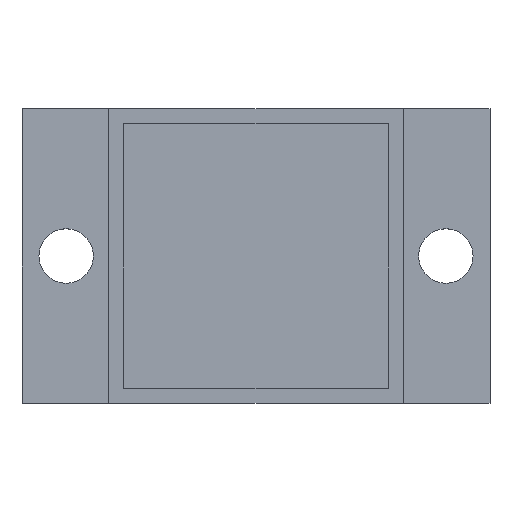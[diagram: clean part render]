
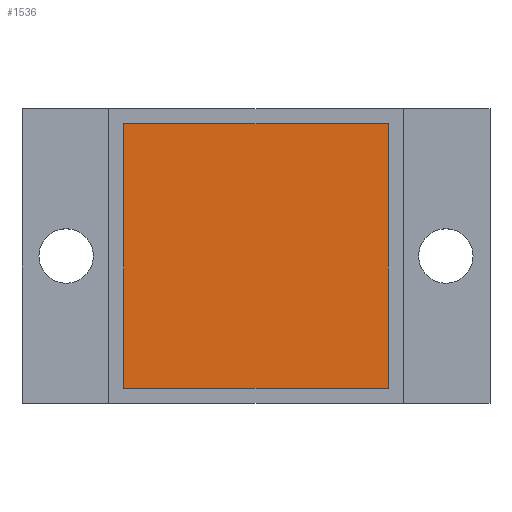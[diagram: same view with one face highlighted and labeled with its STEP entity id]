
A CAD part, top view. The second image highlights one B-rep face of the part: STEP entity #1536.
In plain terms, the highlighted planar face has unit normal (0, 0, 1).
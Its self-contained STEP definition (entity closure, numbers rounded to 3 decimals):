
#383=PLANE('',#4214);
#580=FACE_OUTER_BOUND('',#1851,.T.);
#921=LINE('',#8403,#1318);
#925=LINE('',#8411,#1322);
#928=LINE('',#8417,#1325);
#930=LINE('',#8420,#1327);
#1318=VECTOR('',#5076,1.);
#1322=VECTOR('',#5082,1.);
#1325=VECTOR('',#5087,1.);
#1327=VECTOR('',#5091,1.);
#1536=ADVANCED_FACE('NONE',(#580),#383,.T.);
#1851=EDGE_LOOP('',(#2960,#2961,#2962,#2963));
#2960=ORIENTED_EDGE('',*,*,#3891,.T.);
#2961=ORIENTED_EDGE('',*,*,#3882,.T.);
#2962=ORIENTED_EDGE('',*,*,#3886,.T.);
#2963=ORIENTED_EDGE('',*,*,#3889,.T.);
#3330=VERTEX_POINT('',#8402);
#3331=VERTEX_POINT('',#8404);
#3333=VERTEX_POINT('',#8410);
#3335=VERTEX_POINT('',#8416);
#3882=EDGE_CURVE('NONE',#3331,#3330,#921,.T.);
#3886=EDGE_CURVE('NONE',#3330,#3333,#925,.T.);
#3889=EDGE_CURVE('NONE',#3333,#3335,#928,.T.);
#3891=EDGE_CURVE('NONE',#3335,#3331,#930,.T.);
#4214=AXIS2_PLACEMENT_3D('',#8423,#5096,#5097);
#5076=DIRECTION('',(1.,0.,0.));
#5082=DIRECTION('',(0.,1.,0.));
#5087=DIRECTION('',(-1.,0.,0.));
#5091=DIRECTION('',(0.,-1.,0.));
#5096=DIRECTION('',(0.,0.,1.));
#5097=DIRECTION('',(1.,0.,0.));
#8402=CARTESIAN_POINT('',(9.,-9.,3.));
#8403=CARTESIAN_POINT('',(-9.,-9.,3.));
#8404=CARTESIAN_POINT('',(-9.,-9.,3.));
#8410=CARTESIAN_POINT('',(9.,9.,3.));
#8411=CARTESIAN_POINT('',(9.,9.,3.));
#8416=CARTESIAN_POINT('',(-9.,9.,3.));
#8417=CARTESIAN_POINT('',(-9.,9.,3.));
#8420=CARTESIAN_POINT('',(-9.,9.,3.));
#8423=CARTESIAN_POINT('',(0.,0.,3.));
